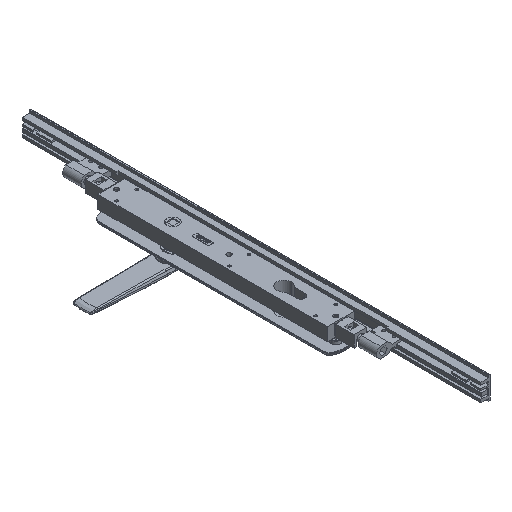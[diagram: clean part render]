
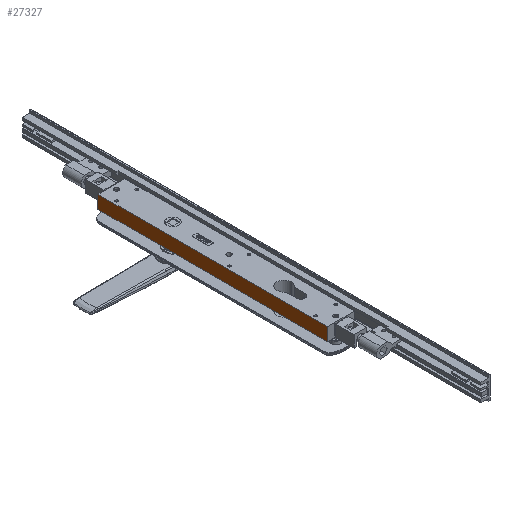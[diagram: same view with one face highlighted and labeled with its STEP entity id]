
A CAD part, isometric view. The second image highlights one B-rep face of the part: STEP entity #27327.
In plain terms, the highlighted planar face has unit normal (-1, 0, 0) as drawn and (1, 0, 0) by its records, which use the part's own axes.
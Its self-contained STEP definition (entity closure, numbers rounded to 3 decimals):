
#169 = AXIS2_PLACEMENT_3D ( 'NONE', #11600, #21587, #9641 ) ;
#233 = DIRECTION ( 'NONE',  ( 0., 1., 0. ) ) ;
#1689 = PLANE ( 'NONE',  #169 ) ;
#1928 = EDGE_LOOP ( 'NONE', ( #25888, #29936, #11988, #10953 ) ) ;
#2216 = VERTEX_POINT ( 'NONE', #8343 ) ;
#3538 = VERTEX_POINT ( 'NONE', #10098 ) ;
#4985 = DIRECTION ( 'NONE',  ( 0., 1., 0. ) ) ;
#7055 = VERTEX_POINT ( 'NONE', #20867 ) ;
#7902 = CARTESIAN_POINT ( 'NONE',  ( 16., 72.75, -7.75 ) ) ;
#8343 = CARTESIAN_POINT ( 'NONE',  ( 16., 72.75, 7.75 ) ) ;
#8428 = VECTOR ( 'NONE', #21028, 1000. ) ;
#8999 = LINE ( 'NONE', #21431, #26770 ) ;
#9641 = DIRECTION ( 'NONE',  ( 0., -1., 0. ) ) ;
#10098 = CARTESIAN_POINT ( 'NONE',  ( 16., 72.75, -7.75 ) ) ;
#10721 = LINE ( 'NONE', #15949, #8428 ) ;
#10953 = ORIENTED_EDGE ( 'NONE', *, *, #11602, .T. ) ;
#11001 = CARTESIAN_POINT ( 'NONE',  ( 16., -199.25, 7.75 ) ) ;
#11600 = CARTESIAN_POINT ( 'NONE',  ( 16., 72.75, 7.75 ) ) ;
#11602 = EDGE_CURVE ( 'NONE', #16183, #7055, #8999, .T. ) ;
#11988 = ORIENTED_EDGE ( 'NONE', *, *, #30681, .F. ) ;
#15031 = VECTOR ( 'NONE', #4985, 1000. ) ;
#15949 = CARTESIAN_POINT ( 'NONE',  ( 16., 72.75, 7.75 ) ) ;
#16183 = VERTEX_POINT ( 'NONE', #11001 ) ;
#17847 = LINE ( 'NONE', #22895, #28504 ) ;
#19275 = EDGE_CURVE ( 'NONE', #7055, #3538, #20636, .T. ) ;
#19452 = DIRECTION ( 'NONE',  ( 0., 0., -1. ) ) ;
#20636 = LINE ( 'NONE', #7902, #15031 ) ;
#20867 = CARTESIAN_POINT ( 'NONE',  ( 16., -199.25, -7.75 ) ) ;
#21028 = DIRECTION ( 'NONE',  ( 0., 0., -1. ) ) ;
#21431 = CARTESIAN_POINT ( 'NONE',  ( 16., -199.25, 7.75 ) ) ;
#21587 = DIRECTION ( 'NONE',  ( -1., 0., 0. ) ) ;
#22895 = CARTESIAN_POINT ( 'NONE',  ( 16., 72.75, 7.75 ) ) ;
#23161 = EDGE_CURVE ( 'NONE', #2216, #3538, #10721, .T. ) ;
#24025 = FACE_OUTER_BOUND ( 'NONE', #1928, .T. ) ;
#25888 = ORIENTED_EDGE ( 'NONE', *, *, #19275, .T. ) ;
#26770 = VECTOR ( 'NONE', #19452, 1000. ) ;
#27327 = ADVANCED_FACE ( 'NONE', ( #24025 ), #1689, .F. ) ;
#28504 = VECTOR ( 'NONE', #233, 1000. ) ;
#29936 = ORIENTED_EDGE ( 'NONE', *, *, #23161, .F. ) ;
#30681 = EDGE_CURVE ( 'NONE', #16183, #2216, #17847, .T. ) ;
